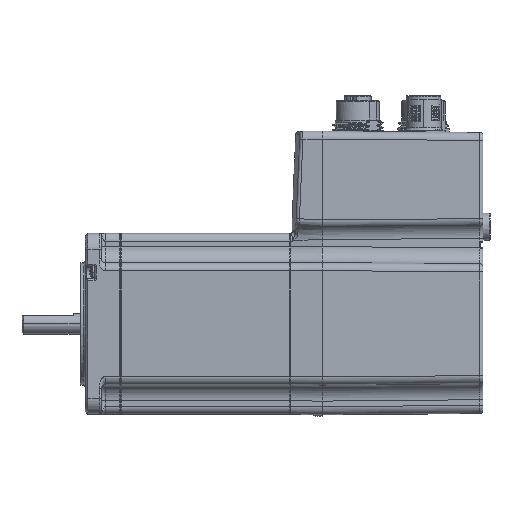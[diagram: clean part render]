
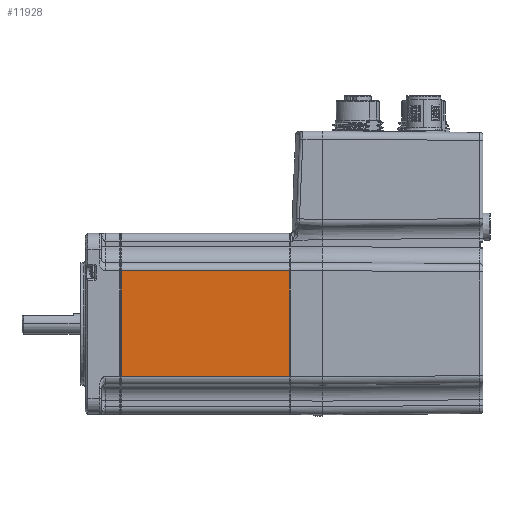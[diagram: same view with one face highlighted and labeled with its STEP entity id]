
A CAD part, top view. The second image highlights one B-rep face of the part: STEP entity #11928.
In plain terms, the highlighted planar face has unit normal (0, 0, 1) as drawn and (1, 0, 0) by its records, which use the part's own axes.
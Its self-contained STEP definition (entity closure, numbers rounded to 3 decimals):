
#10587=DIRECTION('',(0.,0.,-1.));
#10588=VECTOR('',#10587,52.6);
#10589=CARTESIAN_POINT('',(56.2,-11.5,31.8));
#10590=LINE('',#10589,#10588);
#10594=DIRECTION('',(0.,-1.,0.));
#10595=VECTOR('',#10594,33.);
#10596=CARTESIAN_POINT('',(56.2,-11.5,31.8));
#10597=LINE('',#10596,#10595);
#10601=DIRECTION('',(0.,-1.,0.));
#10602=VECTOR('',#10601,33.);
#10603=CARTESIAN_POINT('',(56.2,-11.5,-20.8));
#10604=LINE('',#10603,#10602);
#10632=DIRECTION('',(0.,0.,1.));
#10633=VECTOR('',#10632,52.6);
#10634=CARTESIAN_POINT('',(56.2,-44.5,-20.8));
#10635=LINE('',#10634,#10633);
#10996=CARTESIAN_POINT('',(56.2,-11.5,31.8));
#10997=VERTEX_POINT('',#10996);
#11000=CARTESIAN_POINT('',(56.2,-44.5,31.8));
#11001=VERTEX_POINT('',#11000);
#11094=CARTESIAN_POINT('',(56.2,-11.5,-20.8));
#11095=VERTEX_POINT('',#11094);
#11098=CARTESIAN_POINT('',(56.2,-44.5,-20.8));
#11099=VERTEX_POINT('',#11098);
#11915=CARTESIAN_POINT('',(56.2,-44.5,111.762));
#11916=DIRECTION('',(-1.,0.,0.));
#11917=DIRECTION('',(0.,0.,1.));
#11918=AXIS2_PLACEMENT_3D('',#11915,#11916,#11917);
#11919=PLANE('',#11918);
#11921=ORIENTED_EDGE('',*,*,#11920,.F.);
#11922=ORIENTED_EDGE('',*,*,#11910,.T.);
#11923=ORIENTED_EDGE('',*,*,#11377,.T.);
#11925=ORIENTED_EDGE('',*,*,#11924,.T.);
#11926=EDGE_LOOP('',(#11921,#11922,#11923,#11925));
#11927=FACE_OUTER_BOUND('',#11926,.F.);
#11377=EDGE_CURVE('',#11095,#11099,#10604,.T.);
#11910=EDGE_CURVE('',#10997,#11095,#10590,.T.);
#11920=EDGE_CURVE('',#10997,#11001,#10597,.T.);
#11924=EDGE_CURVE('',#11099,#11001,#10635,.T.);
#11928=ADVANCED_FACE('',(#11927),#11919,.F.);
